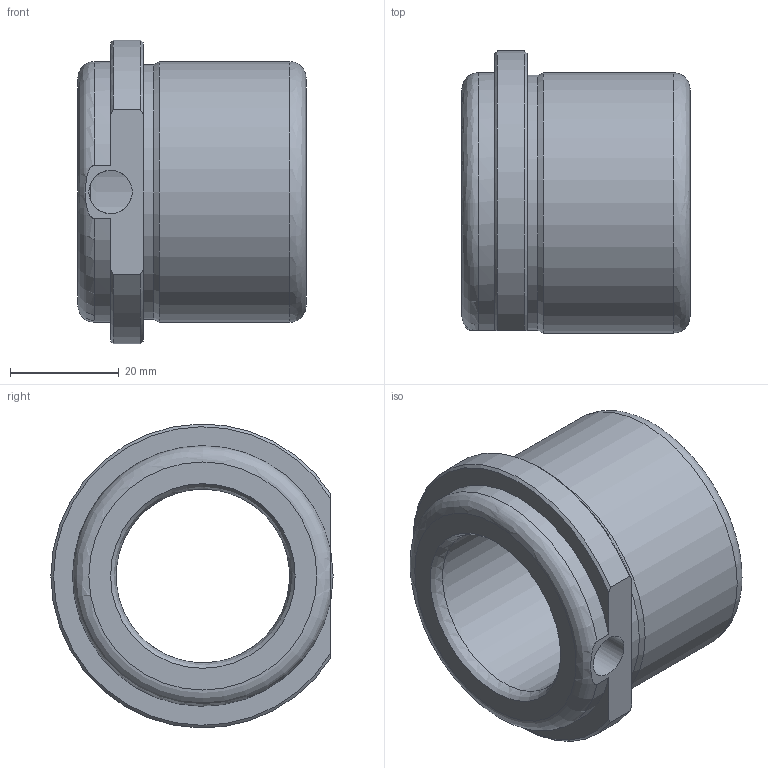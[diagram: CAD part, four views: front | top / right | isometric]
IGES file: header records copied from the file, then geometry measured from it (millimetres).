
Global section: file name: BEBA32-5.ipt; native system: Autodesk Inventor 2021; preprocessor: unknown; author: SM; date: 20220119.054309; units: millimetre
Bounding box: 42 x 52 x 55.97 mm (x, y, z)
Volume: 44260.4 mm3; surface area: 22259.2 mm2
Topology: 2 solids, 2 shells, 21 faces, 66 edges, 44 vertices
Faces by surface type: revolution 8, cylinder 5, plane 5, cone 3
Full cylindrical faces by diameter (mm): 34 x1, 47 x1, 48 x1
